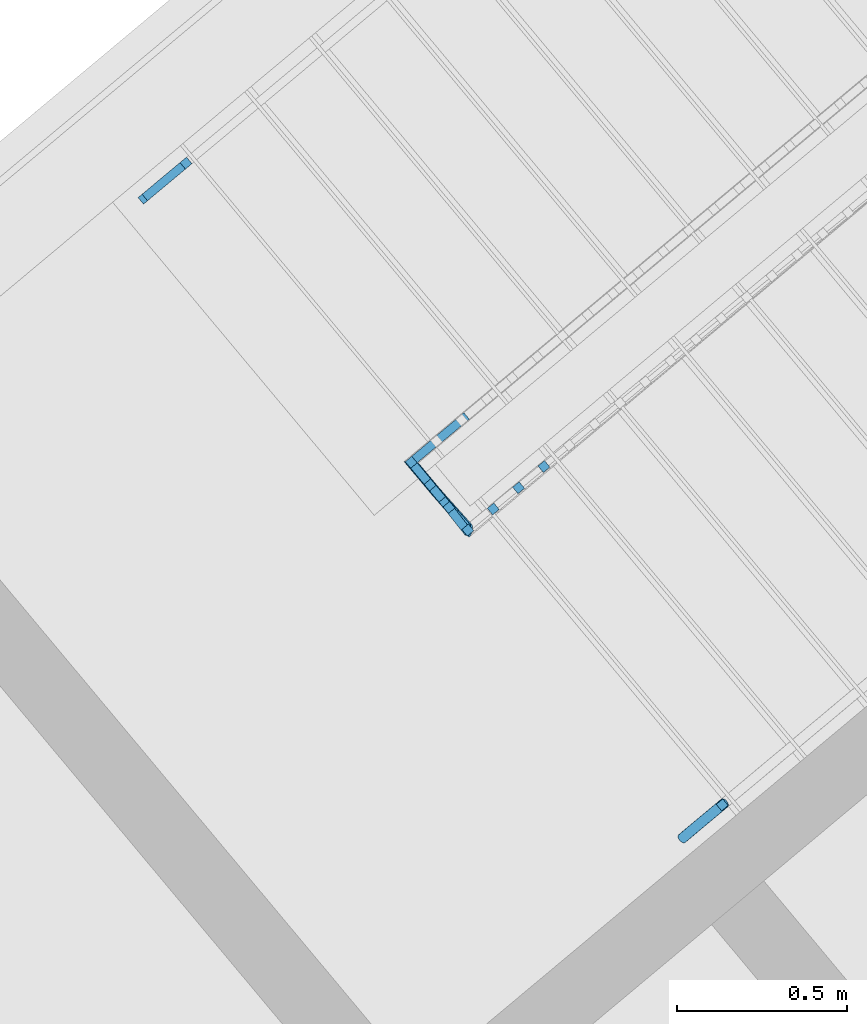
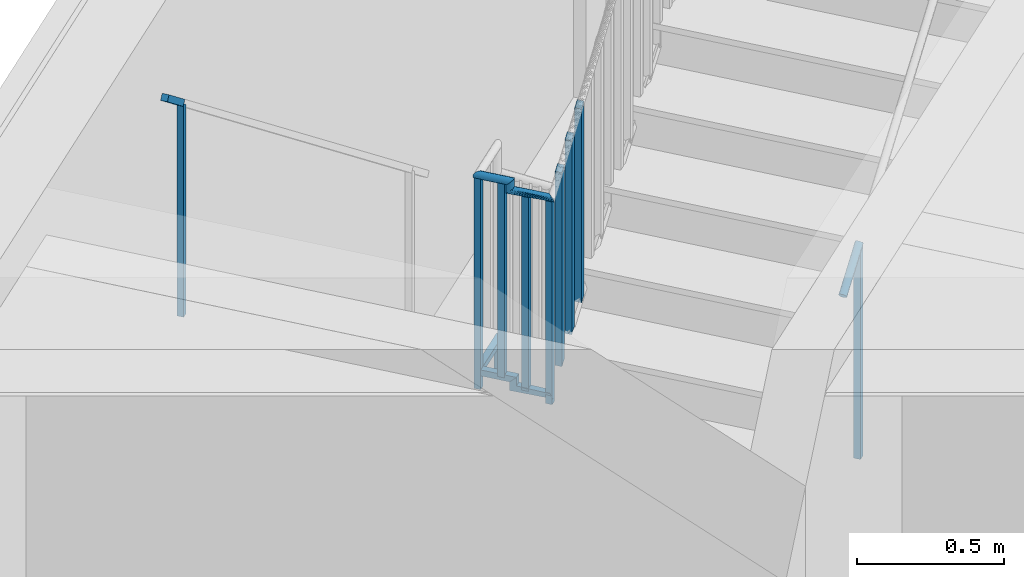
# One storey, part 14 of 17: 16 building element parts, 3 elements without a shape of their own.
"""IFC4 building model written with IfcOpenShell, lengths in metres."""

from ifc_helpers import new_model, entity, si_unit, converted_unit, derived_unit, direction, frame, origin_with_axes, place, context, subcontext, project, spatial, polygons, material, type_object, element, aggregate, save


model = new_model("IFC4")

# Units and contexts
model_context = context("Model", 3, precision=1e-05, world=origin_with_axes(), true_north=direction((0.0, 1.0)))
body_context = subcontext(model_context, "Body", "Model", "MODEL_VIEW")
ifc_project = project(units=[si_unit("LENGTHUNIT", "METRE"), si_unit("AREAUNIT", "SQUARE_METRE"), si_unit("VOLUMEUNIT", "CUBIC_METRE"), converted_unit("PLANEANGLEUNIT", "DEGREE", entity("IfcPlaneAngleMeasure", 0.0174532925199), si_unit("PLANEANGLEUNIT", "RADIAN"), dimensions=[0, 0, 0, 0, 0, 0, 0]), converted_unit("TIMEUNIT", "Year", entity("IfcTimeMeasure", 31556926.0), si_unit("TIMEUNIT", "SECOND"), dimensions=[0, 0, 1, 0, 0, 0, 0]), si_unit("MASSUNIT", "GRAM", prefix="KILO"), si_unit("THERMODYNAMICTEMPERATUREUNIT", "DEGREE_CELSIUS"), si_unit("LUMINOUSINTENSITYUNIT", "LUMEN"), si_unit("ENERGYUNIT", "JOULE", prefix="MEGA"), derived_unit("THERMALCONDUCTANCEUNIT", [(si_unit("POWERUNIT", "WATT"), 1), (si_unit("LENGTHUNIT", "METRE"), -1), (si_unit("THERMODYNAMICTEMPERATUREUNIT", "KELVIN"), -1)]), derived_unit("SPECIFICHEATCAPACITYUNIT", [(si_unit("ENERGYUNIT", "JOULE"), 1), (si_unit("MASSUNIT", "GRAM", prefix="KILO"), -1), (si_unit("THERMODYNAMICTEMPERATUREUNIT", "KELVIN"), -1)]), derived_unit("MASSDENSITYUNIT", [(si_unit("MASSUNIT", "GRAM", prefix="KILO"), 1), (si_unit("VOLUMEUNIT", "CUBIC_METRE"), -1)])], contexts=[model_context])

# Site, building, storey
site_placement = place(None, frame((-0.00153261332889, -0.00661245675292, 0.0), z_axis=(0.0, 0.0, 1.0), x_axis=(1.0, 0.0, 0.0)))
site = spatial("IfcSite", under=ifc_project, at=site_placement, Name="Site", CompositionType="ELEMENT")
building_placement = place(site_placement, origin_with_axes())
building = spatial("IfcBuilding", under=site, at=building_placement, Name="Building", CompositionType="ELEMENT")
storey_placement = place(building_placement, frame((0.0, 0.0, -3.3), z_axis=(0.0, 0.0, 1.0), x_axis=(1.0, 0.0, 0.0)))
storey = spatial("IfcBuildingStorey", under=building, at=storey_placement, Name="UG1", CompositionType="ELEMENT", Elevation=-3.3)

# Railing, building element parts
railing_type = type_object("IfcRailingType", Name="Geländerart", PredefinedType="NOTDEFINED")
railing_1_placement = place(storey_placement, frame((-0.202679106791, 23.9992163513, 0.0), z_axis=(0.0, 0.0, 1.0), x_axis=(1.0, 0.0, 0.0)))
railing_1 = element("IfcRailing", 1, at=railing_1_placement, inside=storey, type_object=railing_type, Name="Geländer - 001", PredefinedType="NOTDEFINED")
ifc_material = material(Name="BEKLEIDUNG")
building_element_part_1_placement = place(railing_1_placement, origin_with_axes())
building_element_part_1 = element("IfcBuildingElementPart", 2, at=building_element_part_1_placement, material=ifc_material, Name="BEKLEIDUNG", PredefinedType="NOTDEFINED", context=body_context, shape_type="Tessellation", body=[
    polygons([(-2.02660346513, -1.61180607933, 1.76666666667), (-2.01057420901, -1.63099104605, 1.76666666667), (-2.01057420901, -1.63099104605, 2.64666666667), (-2.02660346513, -1.61180607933, 2.64666666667), (-2.00741849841, -1.59577682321, 1.76666666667), (-1.99138924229, -1.61496178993, 1.76666666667), (-1.99138924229, -1.61496178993, 2.64666666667), (-2.00741849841, -1.59577682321, 2.64666666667)], [[[1, 2, 3, 4]], [[1, 5, 6, 2]], [[2, 6, 7, 3]], [[4, 3, 7, 8]], [[5, 1, 4, 8]], [[6, 5, 8, 7]]], closed=True),
])
building_element_part_2_placement = place(railing_1_placement, origin_with_axes())
building_element_part_2 = element("IfcBuildingElementPart", 3, at=building_element_part_2_placement, material=ifc_material, Name="BEKLEIDUNG", PredefinedType="NOTDEFINED", context=body_context, shape_type="Tessellation", body=[
    polygons([(-1.85393876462, -1.46754277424, 1.72608830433), (-1.87312373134, -1.48357203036, 1.71386290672), (-1.87312373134, -1.48357203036, 1.82416666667), (-2.0266039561, -1.61180648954, 1.82416666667), (-2.0266039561, -1.61180648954, 1.84916666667), (-1.85393876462, -1.46754277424, 1.84916666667), (-1.8379095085, -1.48672774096, 1.72608830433), (-1.85709447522, -1.50275699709, 1.71386290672), (-1.85709447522, -1.50275699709, 1.82416666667), (-1.99138875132, -1.61496137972, 1.82416666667), (-1.99138875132, -1.61496137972, 1.84916666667), (-1.8379095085, -1.48672774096, 1.84916666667)], [[[1, 2, 3, 4, 5, 6]], [[1, 7, 8, 2]], [[2, 8, 9, 3]], [[3, 9, 10, 4]], [[5, 4, 10, 11]], [[12, 6, 5, 11]], [[7, 1, 6, 12]], [[8, 7, 12, 11, 10, 9]]], closed=True),
])
building_element_part_3_placement = place(railing_1_placement, origin_with_axes())
building_element_part_3 = element("IfcBuildingElementPart", 4, at=building_element_part_3_placement, material=ifc_material, Name="BEKLEIDUNG", PredefinedType="NOTDEFINED", context=body_context, shape_type="Tessellation", body=[
    polygons([(-1.84388748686, -1.83047195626, 1.76666666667), (-1.82470334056, -1.81444171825, 1.76666666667), (-1.82470334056, -1.81444171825, 2.61115718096), (-1.84388748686, -1.83047195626, 2.61115718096), (-1.85991772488, -1.81128780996, 1.76666666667), (-1.84073357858, -1.79525757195, 1.76666666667), (-1.84073357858, -1.79525757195, 2.61115718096), (-1.85991772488, -1.81128780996, 2.61115718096)], [[[1, 2, 3, 4]], [[1, 5, 6, 2]], [[2, 6, 7, 3]], [[4, 3, 7, 8]], [[5, 1, 4, 8]], [[6, 5, 8, 7]]], closed=True),
])
building_element_part_4_placement = place(railing_1_placement, origin_with_axes())
building_element_part_4 = element("IfcBuildingElementPart", 5, at=building_element_part_4_placement, material=ifc_material, Name="BEKLEIDUNG", PredefinedType="NOTDEFINED", context=body_context, shape_type="Tessellation", body=[
    polygons([(-1.92723039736, -1.73073154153, 1.84916666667), (-1.94326063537, -1.71154739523, 1.82416666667), (-1.94326063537, -1.71154739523, 1.78865718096), (-1.92723039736, -1.73073154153, 1.81365718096), (-1.90804625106, -1.71470130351, 1.84916666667), (-1.92407648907, -1.69551715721, 1.82416666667), (-1.92407648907, -1.69551715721, 1.78865718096), (-1.84006881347, -1.82972343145, 1.78913137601), (-1.90804625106, -1.71470130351, 1.81365718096), (-1.83395427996, -1.79805216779, 1.78913137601), (-1.85066678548, -1.82767736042, 1.81318298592), (-1.84455225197, -1.79600609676, 1.81318298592)], [[[1, 2, 3, 4]], [[1, 5, 6, 2]], [[2, 6, 7, 3]], [[4, 3, 8]], [[5, 1, 4, 9]], [[6, 5, 9, 7]], [[3, 7, 10]], [[3, 10, 8]], [[4, 8, 11]], [[9, 4, 11]], [[7, 9, 12]], [[7, 12, 10]], [[11, 8, 10, 12]], [[9, 11, 12]]], closed=True),
])
building_element_part_5_placement = place(railing_1_placement, origin_with_axes())
building_element_part_5 = element("IfcBuildingElementPart", 6, at=building_element_part_5_placement, material=ifc_material, Name="BEKLEIDUNG", PredefinedType="NOTDEFINED", context=body_context, shape_type="Tessellation", body=[
    polygons([(-1.92376109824, -1.69199571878, 2.65166666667), (-1.92226579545, -1.69414061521, 2.65427138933), (-1.92226579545, -1.69414061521, 2.61876190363), (-1.92376109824, -1.69199571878, 2.61615718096), (-1.92560614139, -1.69014306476, 2.649061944), (-1.92774486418, -1.68863894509, 2.64653636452), (-1.9301122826, -1.68752906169, 2.64416666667), (-1.93263646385, -1.68684713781, 2.64202485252), (-1.93524071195, -1.68661389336, 2.64017600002), (-1.93784589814, -1.68683641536, 2.63867628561), (-1.94037286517, -1.68750794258, 2.63757127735), (-1.9427448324, -1.68860807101, 2.63689455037), (-1.94488972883, -1.69010337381, 2.63666666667), (-1.94674238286, -1.69194841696, 2.63689455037), (-1.94824650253, -1.69408713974, 2.63757127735), (-1.94935638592, -1.69645455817, 2.63867628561), (-1.9500383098, -1.69897873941, 2.64017600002), (-1.95027155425, -1.70158298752, 2.64202485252), (-1.95004903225, -1.70418817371, 2.64416666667), (-1.94937750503, -1.70671514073, 2.64653636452), (-1.9482773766, -1.70908710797, 2.649061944), (-1.9467820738, -1.7112320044, 2.65166666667), (-1.94493703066, -1.71308465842, 2.65427138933), (-1.94279830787, -1.71458877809, 2.65679696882), (-1.94043088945, -1.71569866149, 2.65916666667), (-1.9379067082, -1.71638058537, 2.66130848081), (-1.9353024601, -1.71661382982, 2.66315733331), (-1.9326972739, -1.71639130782, 2.66465704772), (-1.93017030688, -1.7157197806, 2.66576205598), (-1.92779833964, -1.71461965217, 2.66643878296), (-1.92565344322, -1.71312434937, 2.66666666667), (-1.92380078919, -1.71127930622, 2.66643878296), (-1.92229666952, -1.70914058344, 2.66576205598), (-1.92118678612, -1.70677316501, 2.66465704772), (-1.92050486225, -1.70424898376, 2.66315733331), (-1.9202716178, -1.70164473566, 2.66130848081), (-1.92049413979, -1.69903954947, 2.65916666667), (-1.92116566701, -1.69651258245, 2.65679696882), (-1.92116566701, -1.69651258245, 2.62128748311), (-1.83344295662, -1.79516516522, 2.61923212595), (-1.92560614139, -1.69014306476, 2.6135524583), (-1.92774486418, -1.68863894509, 2.61102687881), (-1.9301122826, -1.68752906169, 2.60865718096), (-1.93263646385, -1.68684713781, 2.60651536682), (-1.93524071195, -1.68661389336, 2.60466651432), (-1.93784589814, -1.68683641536, 2.60316679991), (-1.94037286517, -1.68750794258, 2.60206179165), (-1.9427448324, -1.68860807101, 2.60138506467), (-1.94488972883, -1.69010337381, 2.60115718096), (-1.94674238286, -1.69194841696, 2.60138506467), (-1.94824650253, -1.69408713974, 2.60206179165), (-1.94935638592, -1.69645455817, 2.60316679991), (-1.9500383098, -1.69897873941, 2.60466651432), (-1.95027155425, -1.70158298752, 2.60651536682), (-1.95004903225, -1.70418817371, 2.60865718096), (-1.94937750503, -1.70671514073, 2.61102687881), (-1.9482773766, -1.70908710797, 2.6135524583), (-1.9467820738, -1.7112320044, 2.61615718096), (-1.94493703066, -1.71308465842, 2.61876190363), (-1.94279830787, -1.71458877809, 2.62128748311), (-1.94043088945, -1.71569866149, 2.62365718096), (-1.9379067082, -1.71638058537, 2.62579899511), (-1.9353024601, -1.71661382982, 2.62764784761), (-1.9326972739, -1.71639130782, 2.62914756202), (-1.93017030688, -1.7157197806, 2.63025257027), (-1.92779833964, -1.71461965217, 2.63092929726), (-1.92565344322, -1.71312434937, 2.63115718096), (-1.92380078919, -1.71127930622, 2.63092929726), (-1.92229666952, -1.70914058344, 2.63025257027), (-1.92118678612, -1.70677316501, 2.62914756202), (-1.92050486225, -1.70424898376, 2.62764784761), (-1.9202716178, -1.70164473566, 2.62579899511), (-1.92049413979, -1.69903954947, 2.62365718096), (-1.83467911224, -1.79581577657, 2.62166189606), (-1.8322830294, -1.79508964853, 2.61672621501), (-1.83123457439, -1.79559152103, 2.61422030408), (-1.83032944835, -1.79665553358, 2.61179053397), (-1.82959515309, -1.7982493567, 2.60951073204), (-1.8290539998, -1.80032456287, 2.60745016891), (-1.82872243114, -1.80281809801, 2.60567145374), (-1.82861052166, -1.80565419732, 2.6042286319), (-1.82872167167, -1.80874668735, 2.6031655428), (-1.82905250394, -1.81200160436, 2.60251448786), (-1.8295929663, -1.81532004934, 2.60229524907), (-1.83032663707, -1.81860119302, 2.60251448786), (-1.83123122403, -1.82174533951, 2.6031655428), (-1.83227924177, -1.82465695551, 2.6042286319), (-1.8334388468, -1.82724757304, 2.60567145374), (-1.8346748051, -1.8294384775, 2.60745016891), (-1.83594956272, -1.83116309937, 2.60951073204), (-1.83722438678, -1.83236903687, 2.61179053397), (-1.8384605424, -1.83301964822, 2.61422030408), (-1.83962046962, -1.83309516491, 2.61672621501), (-1.84066892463, -1.83259329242, 2.61923212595), (-1.84157405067, -1.83152927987, 2.62166189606), (-1.84230834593, -1.82993545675, 2.62394169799), (-1.84284949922, -1.82786025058, 2.62600226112), (-1.84318106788, -1.82536671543, 2.62778097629), (-1.84329297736, -1.82253061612, 2.62922379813), (-1.84318182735, -1.81943812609, 2.63028688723), (-1.84285099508, -1.81618320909, 2.63093794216), (-1.84231053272, -1.81286476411, 2.63115718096), (-1.84157686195, -1.80958362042, 2.63093794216), (-1.84067227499, -1.80643947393, 2.63028688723), (-1.83962425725, -1.80352785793, 2.62922379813), (-1.83846465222, -1.8009372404, 2.62778097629), (-1.83722869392, -1.79874633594, 2.62600226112), (-1.8359539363, -1.79702171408, 2.62394169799)], [[[1, 2, 3, 4]], [[1, 5, 6, 7, 8, 9, 10, 11, 12, 13, 14, 15, 16, 17, 18, 19, 20, 21, 22, 23, 24, 25, 26, 27, 28, 29, 30, 31, 32, 33, 34, 35, 36, 37, 38, 2]], [[2, 38, 39, 3]], [[4, 3, 40]], [[5, 1, 4, 41]], [[6, 5, 41, 42]], [[7, 6, 42, 43]], [[8, 7, 43, 44]], [[9, 8, 44, 45]], [[10, 9, 45, 46]], [[11, 10, 46, 47]], [[12, 11, 47, 48]], [[13, 12, 48, 49]], [[14, 13, 49, 50]], [[15, 14, 50, 51]], [[16, 15, 51, 52]], [[17, 16, 52, 53]], [[18, 17, 53, 54]], [[19, 18, 54, 55]], [[20, 19, 55, 56]], [[21, 20, 56, 57]], [[22, 21, 57, 58]], [[23, 22, 58, 59]], [[24, 23, 59, 60]], [[25, 24, 60, 61]], [[26, 25, 61, 62]], [[27, 26, 62, 63]], [[28, 27, 63, 64]], [[29, 28, 64, 65]], [[30, 29, 65, 66]], [[31, 30, 66, 67]], [[32, 31, 67, 68]], [[33, 32, 68, 69]], [[34, 33, 69, 70]], [[35, 34, 70, 71]], [[36, 35, 71, 72]], [[37, 36, 72, 73]], [[38, 37, 73, 39]], [[3, 39, 74]], [[3, 74, 40]], [[4, 40, 75]], [[41, 4, 75]], [[42, 41, 76]], [[43, 42, 77]], [[44, 43, 78]], [[45, 44, 79]], [[46, 45, 80]], [[47, 46, 81]], [[48, 47, 82]], [[49, 48, 83]], [[50, 49, 84]], [[51, 50, 85]], [[52, 51, 86]], [[53, 52, 87]], [[54, 53, 88]], [[55, 54, 89]], [[56, 55, 90]], [[57, 56, 91]], [[58, 57, 92]], [[59, 58, 93]], [[60, 59, 94]], [[61, 60, 95]], [[62, 61, 96]], [[63, 62, 97]], [[64, 63, 98]], [[65, 64, 99]], [[66, 65, 100]], [[67, 66, 101]], [[68, 67, 102]], [[69, 68, 103]], [[70, 69, 104]], [[71, 70, 105]], [[72, 71, 106]], [[73, 72, 107]], [[39, 73, 108]], [[39, 108, 74]], [[75, 40, 74, 108, 107, 106, 105, 104, 103, 102, 101, 100, 99, 98, 97, 96, 95, 94, 93, 92, 91, 90, 89, 88, 87, 86, 85, 84, 83, 82, 81, 80, 79, 78, 77, 76]], [[41, 75, 76]], [[42, 76, 77]], [[43, 77, 78]], [[44, 78, 79]], [[45, 79, 80]], [[46, 80, 81]], [[47, 81, 82]], [[48, 82, 83]], [[49, 83, 84]], [[50, 84, 85]], [[51, 85, 86]], [[52, 86, 87]], [[53, 87, 88]], [[54, 88, 89]], [[55, 89, 90]], [[56, 90, 91]], [[57, 91, 92]], [[58, 92, 93]], [[59, 93, 94]], [[60, 94, 95]], [[61, 95, 96]], [[62, 96, 97]], [[63, 97, 98]], [[64, 98, 99]], [[65, 99, 100]], [[66, 100, 101]], [[67, 101, 102]], [[68, 102, 103]], [[69, 103, 104]], [[70, 104, 105]], [[71, 105, 106]], [[72, 106, 107]], [[73, 107, 108]]], closed=True),
])
building_element_part_6_placement = place(railing_1_placement, origin_with_axes())
building_element_part_6 = element("IfcBuildingElementPart", 7, at=building_element_part_6_placement, material=ifc_material, Name="BEKLEIDUNG", PredefinedType="NOTDEFINED", context=body_context, shape_type="Tessellation", body=[
    polygons([(-1.98786723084, -1.61527686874, 2.65166666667), (-1.98818822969, -1.61524811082, 2.65427138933), (-1.92226579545, -1.69414061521, 2.65427138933), (-1.92376109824, -1.69199571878, 2.65166666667), (-1.98818822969, -1.61524811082, 2.649061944), (-1.98914147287, -1.61516271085, 2.64653636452), (-1.99069799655, -1.61502326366, 2.64416666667), (-1.99281050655, -1.61483400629, 2.64202485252), (-1.99541481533, -1.61460068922, 2.64017600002), (-1.99843179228, -1.61433040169, 2.63867628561), (-2.00176976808, -1.61403135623, 2.63757127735), (-2.00532732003, -1.61371263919, 2.63689455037), (-2.00899635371, -1.61338393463, 2.63666666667), (-2.01266538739, -1.61305523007, 2.63689455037), (-2.01622293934, -1.61273651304, 2.63757127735), (-2.01956091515, -1.61243746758, 2.63867628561), (-2.0225778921, -1.61216718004, 2.64017600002), (-2.02518220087, -1.61193386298, 2.64202485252), (-2.02729471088, -1.61174460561, 2.64416666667), (-2.02885123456, -1.61160515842, 2.64653636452), (-2.02980447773, -1.61151975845, 2.649061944), (-2.03012547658, -1.61149100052, 2.65166666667), (-2.02980447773, -1.61151975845, 2.65427138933), (-2.02885123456, -1.61160515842, 2.65679696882), (-2.02729471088, -1.61174460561, 2.65916666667), (-2.02518220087, -1.61193386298, 2.66130848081), (-2.0225778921, -1.61216718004, 2.66315733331), (-2.01956091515, -1.61243746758, 2.66465704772), (-2.01622293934, -1.61273651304, 2.66576205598), (-2.01266538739, -1.61305523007, 2.66643878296), (-2.00899635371, -1.61338393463, 2.66666666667), (-2.00532732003, -1.61371263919, 2.66643878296), (-2.00176976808, -1.61403135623, 2.66576205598), (-1.99843179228, -1.61433040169, 2.66465704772), (-1.99541481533, -1.61460068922, 2.66315733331), (-1.99281050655, -1.61483400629, 2.66130848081), (-1.99069799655, -1.61502326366, 2.65916666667), (-1.98914147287, -1.61516271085, 2.65679696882), (-1.92116566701, -1.69651258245, 2.65679696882), (-1.92049413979, -1.69903954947, 2.65916666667), (-1.9202716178, -1.70164473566, 2.66130848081), (-1.92050486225, -1.70424898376, 2.66315733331), (-1.92118678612, -1.70677316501, 2.66465704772), (-1.92229666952, -1.70914058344, 2.66576205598), (-1.92380078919, -1.71127930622, 2.66643878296), (-1.92565344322, -1.71312434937, 2.66666666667), (-1.92779833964, -1.71461965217, 2.66643878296), (-1.93017030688, -1.7157197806, 2.66576205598), (-1.9326972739, -1.71639130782, 2.66465704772), (-1.9353024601, -1.71661382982, 2.66315733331), (-1.9379067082, -1.71638058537, 2.66130848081), (-1.94043088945, -1.71569866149, 2.65916666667), (-1.94279830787, -1.71458877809, 2.65679696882), (-1.94493703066, -1.71308465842, 2.65427138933), (-1.9467820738, -1.7112320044, 2.65166666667), (-1.9482773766, -1.70908710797, 2.649061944), (-1.94937750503, -1.70671514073, 2.64653636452), (-1.95004903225, -1.70418817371, 2.64416666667), (-1.95027155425, -1.70158298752, 2.64202485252), (-1.9500383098, -1.69897873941, 2.64017600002), (-1.94935638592, -1.69645455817, 2.63867628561), (-1.94824650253, -1.69408713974, 2.63757127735), (-1.94674238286, -1.69194841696, 2.63689455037), (-1.94488972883, -1.69010337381, 2.63666666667), (-1.9427448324, -1.68860807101, 2.63689455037), (-1.94037286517, -1.68750794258, 2.63757127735), (-1.93784589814, -1.68683641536, 2.63867628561), (-1.93524071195, -1.68661389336, 2.64017600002), (-1.93263646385, -1.68684713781, 2.64202485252), (-1.9301122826, -1.68752906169, 2.64416666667), (-1.92774486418, -1.68863894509, 2.64653636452), (-1.92560614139, -1.69014306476, 2.649061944)], [[[1, 2, 3, 4]], [[1, 5, 6, 7, 8, 9, 10, 11, 12, 13, 14, 15, 16, 17, 18, 19, 20, 21, 22, 23, 24, 25, 26, 27, 28, 29, 30, 31, 32, 33, 34, 35, 36, 37, 38, 2]], [[2, 38, 39, 3]], [[4, 3, 39, 40, 41, 42, 43, 44, 45, 46, 47, 48, 49, 50, 51, 52, 53, 54, 55, 56, 57, 58, 59, 60, 61, 62, 63, 64, 65, 66, 67, 68, 69, 70, 71, 72]], [[5, 1, 4, 72]], [[6, 5, 72, 71]], [[7, 6, 71, 70]], [[8, 7, 70, 69]], [[9, 8, 69, 68]], [[10, 9, 68, 67]], [[11, 10, 67, 66]], [[12, 11, 66, 65]], [[13, 12, 65, 64]], [[14, 13, 64, 63]], [[15, 14, 63, 62]], [[16, 15, 62, 61]], [[17, 16, 61, 60]], [[18, 17, 60, 59]], [[19, 18, 59, 58]], [[20, 19, 58, 57]], [[21, 20, 57, 56]], [[22, 21, 56, 55]], [[23, 22, 55, 54]], [[24, 23, 54, 53]], [[25, 24, 53, 52]], [[26, 25, 52, 51]], [[27, 26, 51, 50]], [[28, 27, 50, 49]], [[29, 28, 49, 48]], [[30, 29, 48, 47]], [[31, 30, 47, 46]], [[32, 31, 46, 45]], [[33, 32, 45, 44]], [[34, 33, 44, 43]], [[35, 34, 43, 42]], [[36, 35, 42, 41]], [[37, 36, 41, 40]], [[38, 37, 40, 39]]], closed=True),
])
building_element_part_7_placement = place(railing_1_placement, origin_with_axes())
building_element_part_7 = element("IfcBuildingElementPart", 8, at=building_element_part_7_placement, material=ifc_material, Name="BEKLEIDUNG", PredefinedType="NOTDEFINED", context=body_context, shape_type="Tessellation", body=[
    polygons([(-2.0266039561, -1.61180648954, 1.84916666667), (-2.0266039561, -1.61180648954, 1.82416666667), (-1.94326063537, -1.71154739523, 1.82416666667), (-1.92723039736, -1.73073154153, 1.84916666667), (-1.99138875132, -1.61496137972, 1.84916666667), (-1.99138875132, -1.61496137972, 1.82416666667), (-1.92407648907, -1.69551715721, 1.82416666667), (-1.90804625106, -1.71470130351, 1.84916666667)], [[[1, 2, 3, 4]], [[1, 5, 6, 2]], [[2, 6, 7, 3]], [[4, 3, 7, 8]], [[5, 1, 4, 8]], [[6, 5, 8, 7]]], closed=True),
])
building_element_part_8_placement = place(railing_1_placement, origin_with_axes())
building_element_part_8 = element("IfcBuildingElementPart", 9, at=building_element_part_8_placement, material=ifc_material, Name="BEKLEIDUNG", PredefinedType="NOTDEFINED", context=body_context, shape_type="Tessellation", body=[
    polygons([(-1.95501136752, -1.69748473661, 1.83666666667), (-1.93582722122, -1.6814544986, 1.83666666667), (-1.93582722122, -1.6814544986, 2.64416666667), (-1.95501136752, -1.69748473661, 2.64416666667), (-1.97104160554, -1.67830059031, 1.83666666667), (-1.95185745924, -1.6622703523, 1.83666666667), (-1.95185745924, -1.6622703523, 2.64416666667), (-1.97104160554, -1.67830059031, 2.64416666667)], [[[1, 2, 3, 4]], [[1, 5, 6, 2]], [[2, 6, 7, 3]], [[4, 3, 7, 8]], [[5, 1, 4, 8]], [[6, 5, 8, 7]]], closed=True),
])
building_element_part_9_placement = place(railing_1_placement, origin_with_axes())
building_element_part_9 = element("IfcBuildingElementPart", 10, at=building_element_part_9_placement, material=ifc_material, Name="BEKLEIDUNG", PredefinedType="NOTDEFINED", context=body_context, shape_type="Tessellation", body=[
    polygons([(-1.89944942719, -1.76397834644, 1.80115718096), (-1.88026528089, -1.74794810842, 1.80115718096), (-1.88026528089, -1.74794810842, 2.60865718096), (-1.89944942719, -1.76397834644, 2.60865718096), (-1.91547966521, -1.74479420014, 1.80115718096), (-1.89629551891, -1.72876396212, 1.80115718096), (-1.89629551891, -1.72876396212, 2.60865718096), (-1.91547966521, -1.74479420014, 2.60865718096)], [[[1, 2, 3, 4]], [[1, 5, 6, 2]], [[2, 6, 7, 3]], [[4, 3, 7, 8]], [[5, 1, 4, 8]], [[6, 5, 8, 7]]], closed=True),
])
building_element_part_10_placement = place(railing_1_placement, origin_with_axes())
building_element_part_10 = element("IfcBuildingElementPart", 11, at=building_element_part_10_placement, material=ifc_material, Name="BEKLEIDUNG", PredefinedType="NOTDEFINED", context=body_context, shape_type="Tessellation", body=[
    polygons([(-1.75015635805, -1.75215039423, 1.87902706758), (-1.76618659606, -1.73296624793, 1.87902706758), (-1.76618659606, -1.73296624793, 2.68652706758), (-1.75015635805, -1.75215039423, 2.68652706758), (-1.76934050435, -1.76818063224, 1.86127232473), (-1.78537074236, -1.74899648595, 1.86127232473), (-1.78537074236, -1.74899648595, 2.66877232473), (-1.76934050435, -1.76818063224, 2.66877232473)], [[[1, 2, 3, 4]], [[1, 5, 6, 2]], [[2, 6, 7, 3]], [[4, 3, 7, 8]], [[5, 1, 4, 8]], [[6, 5, 8, 7]]], closed=True),
])
building_element_part_11_placement = place(railing_1_placement, origin_with_axes())
building_element_part_11 = element("IfcBuildingElementPart", 12, at=building_element_part_11_placement, material=ifc_material, Name="BEKLEIDUNG", PredefinedType="NOTDEFINED", context=body_context, shape_type="Tessellation", body=[
    polygons([(-1.67560937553, -1.68985907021, 1.94801958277), (-1.69163961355, -1.67067492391, 1.94801958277), (-1.69163961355, -1.67067492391, 2.75551958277), (-1.67560937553, -1.68985907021, 2.75551958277), (-1.69479352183, -1.70588930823, 1.93026483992), (-1.71082375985, -1.68670516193, 1.93026483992), (-1.71082375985, -1.68670516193, 2.73776483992), (-1.69479352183, -1.70588930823, 2.73776483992)], [[[1, 2, 3, 4]], [[1, 5, 6, 2]], [[2, 6, 7, 3]], [[4, 3, 7, 8]], [[5, 1, 4, 8]], [[6, 5, 8, 7]]], closed=True),
])
building_element_part_12_placement = place(railing_1_placement, origin_with_axes())
building_element_part_12 = element("IfcBuildingElementPart", 13, at=building_element_part_12_placement, material=ifc_material, Name="BEKLEIDUNG", PredefinedType="NOTDEFINED", context=body_context, shape_type="Tessellation", body=[
    polygons([(-1.60106239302, -1.62756774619, 2.01701209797), (-1.61709263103, -1.6083835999, 2.01701209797), (-1.61709263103, -1.6083835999, 2.82451209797), (-1.60106239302, -1.62756774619, 2.82451209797), (-1.62024653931, -1.64359798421, 1.99925735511), (-1.63627677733, -1.62441383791, 1.99925735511), (-1.63627677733, -1.62441383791, 2.80675735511), (-1.62024653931, -1.64359798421, 2.80675735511)], [[[1, 2, 3, 4]], [[1, 5, 6, 2]], [[2, 6, 7, 3]], [[4, 3, 7, 8]], [[5, 1, 4, 8]], [[6, 5, 8, 7]]], closed=True),
])
aggregate(railing_1, [building_element_part_1, building_element_part_2, building_element_part_3, building_element_part_4, building_element_part_5, building_element_part_6, building_element_part_7, building_element_part_8, building_element_part_9, building_element_part_10, building_element_part_11, building_element_part_12])

railing_2_placement = place(storey_placement, frame((0.454398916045, 22.776202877, 1.76666666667), z_axis=(0.0, 0.0, 1.0), x_axis=(1.0, 0.0, 0.0)))
railing_2 = element("IfcRailing", 14, at=railing_2_placement, inside=storey, type_object=railing_type, Name="Geländer - 001", PredefinedType="NOTDEFINED")
building_element_part_13_placement = place(railing_2_placement, origin_with_axes())
building_element_part_13 = element("IfcBuildingElementPart", 15, at=building_element_part_13_placement, material=ifc_material, Name="BEKLEIDUNG", PredefinedType="NOTDEFINED", context=body_context, shape_type="Tessellation", body=[
    polygons([(-1.76887454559, -1.39662091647, 0.0), (-1.75284430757, -1.41580506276, 0.0), (-1.75284430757, -1.41580506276, 0.87109684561), (-1.76887454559, -1.39662091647, 0.87109684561), (-1.74969039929, -1.38059067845, 0.0), (-1.73366016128, -1.39977482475, 0.0), (-1.73366016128, -1.39977482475, 0.88890315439), (-1.74969039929, -1.38059067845, 0.88890315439)], [[[1, 2, 3, 4]], [[1, 5, 6, 2]], [[2, 6, 7, 3]], [[4, 3, 7, 8]], [[5, 1, 4, 8]], [[6, 5, 8, 7]]], closed=True),
])
building_element_part_14_placement = place(railing_2_placement, origin_with_axes())
building_element_part_14 = element("IfcBuildingElementPart", 16, at=building_element_part_14_placement, material=ifc_material, Name="BEKLEIDUNG", PredefinedType="NOTDEFINED", context=body_context, shape_type="Tessellation", body=[
    polygons([(-1.73497150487, -1.40412847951, 0.8877822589), (-1.7362771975, -1.40492254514, 0.889903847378), (-1.8612835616, -1.50937763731, 0.773875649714), (-1.85997786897, -1.50858357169, 0.771754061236), (-1.73395805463, -1.40298467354, 0.885660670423), (-1.73326763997, -1.40152588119, 0.883603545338), (-1.73292123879, -1.39979642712, 0.881673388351), (-1.7329293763, -1.39784885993, 0.879928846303), (-1.73329180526, -1.39574235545, 0.878422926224), (-1.73399751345, -1.39354091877, 0.877201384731), (-1.73502505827, -1.39131143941, 0.876301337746), (-1.7363432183, -1.38912165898, 0.875750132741), (-1.73791194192, -1.38703811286, 0.875564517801), (-1.73968356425, -1.38512410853, 0.875750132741), (-1.74160425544, -1.38343780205, 0.876301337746), (-1.74361565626, -1.38203043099, 0.877201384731), (-1.74565665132, -1.3809447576, 0.878422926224), (-1.74766522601, -1.38021376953, 0.879928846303), (-1.74958035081, -1.37985967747, 0.881673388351), (-1.75134383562, -1.37989324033, 0.883603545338), (-1.75290209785, -1.38031343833, 0.885660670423), (-1.75420779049, -1.38110750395, 0.8877822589), (-1.75522124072, -1.38225130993, 0.889903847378), (-1.75591165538, -1.38371010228, 0.891960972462), (-1.75625805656, -1.38543955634, 0.89389112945), (-1.75624991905, -1.38738712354, 0.895635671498), (-1.75588749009, -1.38949362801, 0.897141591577), (-1.7551817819, -1.3916950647, 0.89836313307), (-1.75415423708, -1.39392454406, 0.899263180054), (-1.75283607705, -1.39611432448, 0.89981438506), (-1.75126735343, -1.39819787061, 0.9), (-1.74949573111, -1.40011187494, 0.89981438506), (-1.74757503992, -1.40179818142, 0.899263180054), (-1.7455636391, -1.40320555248, 0.89836313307), (-1.74352264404, -1.40429122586, 0.897141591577), (-1.74151406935, -1.40502221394, 0.895635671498), (-1.73959894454, -1.405376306, 0.89389112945), (-1.73783545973, -1.40534274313, 0.891960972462), (-1.86284182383, -1.50979783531, 0.775932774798), (-1.86460530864, -1.50983139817, 0.777862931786), (-1.86652043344, -1.50947730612, 0.779607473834), (-1.86852900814, -1.50874631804, 0.781113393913), (-1.87057000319, -1.50766064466, 0.782334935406), (-1.87258140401, -1.50625327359, 0.78323498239), (-1.8745020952, -1.50456696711, 0.783786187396), (-1.87627371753, -1.50265296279, 0.783971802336), (-1.87784244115, -1.50056941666, 0.783786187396), (-1.87916060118, -1.49837963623, 0.78323498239), (-1.880188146, -1.49615015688, 0.782334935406), (-1.88089385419, -1.49394872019, 0.781113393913), (-1.88125628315, -1.49184221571, 0.779607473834), (-1.88126442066, -1.48989464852, 0.777862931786), (-1.88091801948, -1.48816519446, 0.775932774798), (-1.88022760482, -1.4867064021, 0.773875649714), (-1.87921415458, -1.48556259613, 0.771754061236), (-1.87790846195, -1.48476853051, 0.769632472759), (-1.87635019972, -1.48434833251, 0.767575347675), (-1.87458671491, -1.48431476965, 0.765645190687), (-1.87267159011, -1.48466886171, 0.763900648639), (-1.87066301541, -1.48539984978, 0.76239472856), (-1.86862202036, -1.48648552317, 0.761173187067), (-1.86661061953, -1.48789289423, 0.760273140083), (-1.86468992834, -1.48957920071, 0.759721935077), (-1.86291830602, -1.49149320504, 0.759536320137), (-1.8613495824, -1.49357675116, 0.759721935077), (-1.86003142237, -1.49576653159, 0.760273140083), (-1.85900387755, -1.49799601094, 0.761173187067), (-1.85829816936, -1.50019744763, 0.76239472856), (-1.8579357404, -1.50230395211, 0.763900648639), (-1.85792760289, -1.5042515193, 0.765645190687), (-1.85827400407, -1.50598097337, 0.767575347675), (-1.85896441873, -1.50743976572, 0.769632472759)], [[[1, 2, 3, 4]], [[1, 5, 6, 7, 8, 9, 10, 11, 12, 13, 14, 15, 16, 17, 18, 19, 20, 21, 22, 23, 24, 25, 26, 27, 28, 29, 30, 31, 32, 33, 34, 35, 36, 37, 38, 2]], [[2, 38, 39, 3]], [[4, 3, 39, 40, 41, 42, 43, 44, 45, 46, 47, 48, 49, 50, 51, 52, 53, 54, 55, 56, 57, 58, 59, 60, 61, 62, 63, 64, 65, 66, 67, 68, 69, 70, 71, 72]], [[5, 1, 4, 72]], [[6, 5, 72, 71]], [[7, 6, 71, 70]], [[8, 7, 70, 69]], [[9, 8, 69, 68]], [[10, 9, 68, 67]], [[11, 10, 67, 66]], [[12, 11, 66, 65]], [[13, 12, 65, 64]], [[14, 13, 64, 63]], [[15, 14, 63, 62]], [[16, 15, 62, 61]], [[17, 16, 61, 60]], [[18, 17, 60, 59]], [[19, 18, 59, 58]], [[20, 19, 58, 57]], [[21, 20, 57, 56]], [[22, 21, 56, 55]], [[23, 22, 55, 54]], [[24, 23, 54, 53]], [[25, 24, 53, 52]], [[26, 25, 52, 51]], [[27, 26, 51, 50]], [[28, 27, 50, 49]], [[29, 28, 49, 48]], [[30, 29, 48, 47]], [[31, 30, 47, 46]], [[32, 31, 46, 45]], [[33, 32, 45, 44]], [[34, 33, 44, 43]], [[35, 34, 43, 42]], [[36, 35, 42, 41]], [[37, 36, 41, 40]], [[38, 37, 40, 39]]], closed=True),
])
aggregate(railing_2, [building_element_part_13, building_element_part_14])

railing_3_placement = place(storey_placement, frame((-0.972083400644, 24.9200947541, 0.0), z_axis=(0.0, 0.0, 1.0), x_axis=(1.0, 0.0, 0.0)))
railing_3 = element("IfcRailing", 17, at=railing_3_placement, inside=storey, type_object=railing_type, Name="Geländer - 001", PredefinedType="NOTDEFINED")
building_element_part_15_placement = place(railing_3_placement, origin_with_axes())
building_element_part_15 = element("IfcBuildingElementPart", 18, at=building_element_part_15_placement, material=ifc_material, Name="BEKLEIDUNG", PredefinedType="NOTDEFINED", context=body_context, shape_type="Tessellation", body=[
    polygons([(-1.91973905, -1.65283001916, 1.76666666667), (-1.90370979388, -1.67201498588, 1.76666666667), (-1.90370979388, -1.67201498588, 2.65641556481), (-1.91973905, -1.65283001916, 2.65641556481), (-1.90055408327, -1.63680076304, 1.76666666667), (-1.88452482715, -1.65598572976, 1.76666666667), (-1.88452482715, -1.65598572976, 2.63691776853), (-1.90055408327, -1.63680076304, 2.63691776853)], [[[1, 2, 3, 4]], [[1, 5, 6, 2]], [[2, 6, 7, 3]], [[4, 3, 7, 8]], [[5, 1, 4, 8]], [[6, 5, 8, 7]]], closed=True),
])
building_element_part_16_placement = place(railing_3_placement, origin_with_axes())
building_element_part_16 = element("IfcBuildingElementPart", 19, at=building_element_part_16_placement, material=ifc_material, Name="BEKLEIDUNG", PredefinedType="NOTDEFINED", context=body_context, shape_type="Tessellation", body=[
    polygons([(-1.91014656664, -1.6448153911, 2.66666666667), (-1.92194510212, -1.65467320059, 2.64695326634), (-2.04296939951, -1.75579036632, 2.76995098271), (-2.03117086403, -1.74593255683, 2.78966438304), (-1.89411731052, -1.66400035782, 2.66666666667), (-1.90591584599, -1.67385816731, 2.64695326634), (-2.02694014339, -1.77497533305, 2.76995098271), (-2.01514160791, -1.76511752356, 2.78966438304)], [[[1, 2, 3, 4]], [[1, 5, 6, 2]], [[2, 6, 7, 3]], [[4, 3, 7, 8]], [[5, 1, 4, 8]], [[6, 5, 8, 7]]], closed=True),
])
aggregate(railing_3, [building_element_part_15, building_element_part_16])

save(model, "model.ifc")
